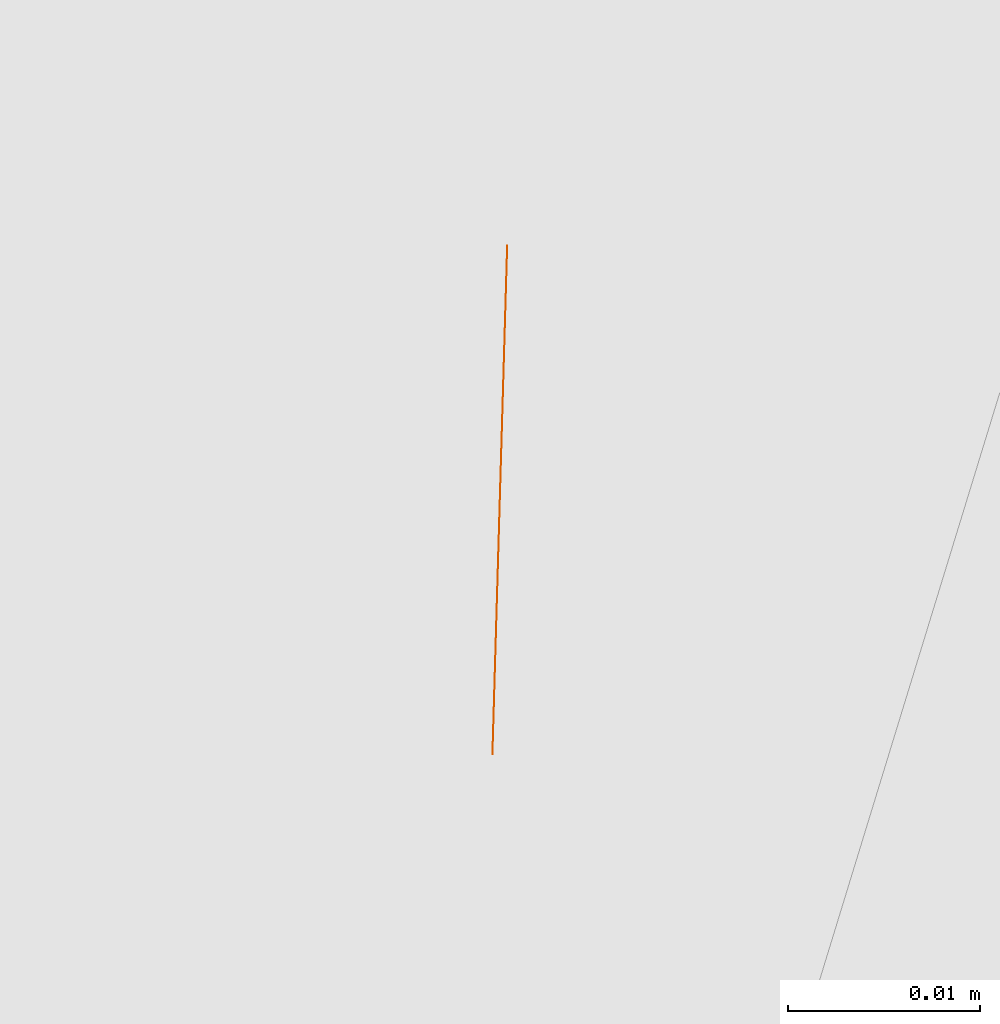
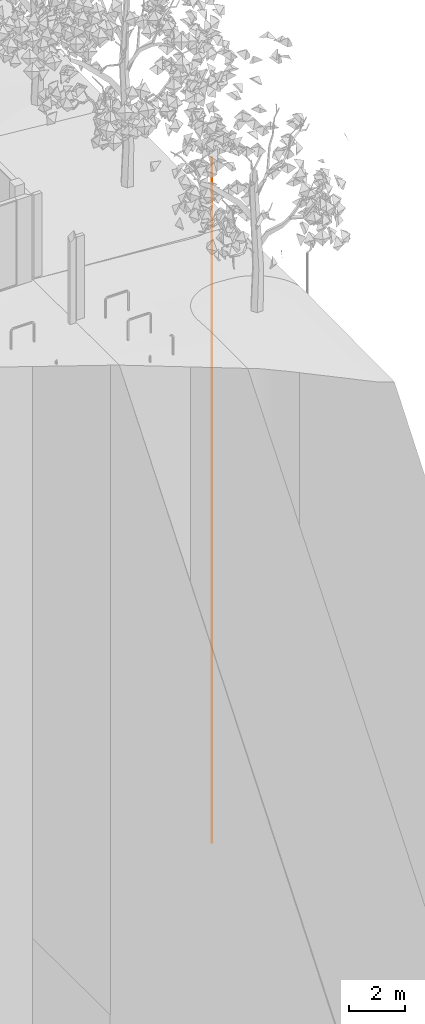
# One storey, part 46 of 69: 1 proxy.
"""IFC2X3 building model written with IfcOpenShell, lengths in millimetres."""

from ifc_helpers import new_model, entity, si_unit, converted_unit, derived_unit, money_unit, point, direction, frame, frame_2d, origin_with_axes, place, context, subcontext, project, spatial, polyline, circle_curve, parameter, trimmed, segment, composite_curve, outline, extrude, material, type_object, element, save


model = new_model("IFC2X3")

# Units and contexts
model_context = context("Model", 3, precision=0.01, world=origin_with_axes(), true_north=direction((0.0, 1.0)))
body_context = subcontext(model_context, "Body", "Model", "MODEL_VIEW")
ifc_project = project(units=[si_unit("LENGTHUNIT", "METRE", prefix="MILLI"), si_unit("AREAUNIT", "SQUARE_METRE"), si_unit("VOLUMEUNIT", "CUBIC_METRE"), converted_unit("PLANEANGLEUNIT", "DEGREE", entity("IfcPlaneAngleMeasure", 0.0174532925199), si_unit("PLANEANGLEUNIT", "RADIAN"), dimensions=[0, 0, 0, 0, 0, 0, 0]), si_unit("SOLIDANGLEUNIT", "STERADIAN"), money_unit("EUR"), converted_unit("TIMEUNIT", "Year", entity("IfcTimeMeasure", 31556926.0), si_unit("TIMEUNIT", "SECOND"), dimensions=[0, 0, 1, 0, 0, 0, 0]), si_unit("MASSUNIT", "GRAM", prefix="KILO"), si_unit("THERMODYNAMICTEMPERATUREUNIT", "DEGREE_CELSIUS"), si_unit("LUMINOUSINTENSITYUNIT", "LUMEN"), si_unit("ENERGYUNIT", "JOULE", prefix="MEGA"), derived_unit("THERMALCONDUCTANCEUNIT", [(si_unit("POWERUNIT", "WATT"), 1), (si_unit("LENGTHUNIT", "METRE"), -1), (si_unit("THERMODYNAMICTEMPERATUREUNIT", "KELVIN"), -1)]), derived_unit("SPECIFICHEATCAPACITYUNIT", [(si_unit("ENERGYUNIT", "JOULE"), 1), (si_unit("MASSUNIT", "GRAM", prefix="KILO"), -1), (si_unit("THERMODYNAMICTEMPERATUREUNIT", "KELVIN"), -1)]), derived_unit("MASSDENSITYUNIT", [(si_unit("MASSUNIT", "GRAM", prefix="KILO"), 1), (si_unit("VOLUMEUNIT", "CUBIC_METRE"), -1)])], contexts=[model_context])

# Site, building, storey
site_placement = place(None, origin_with_axes())
site = spatial("IfcSite", under=ifc_project, at=site_placement, Name="Puškini 31, Narva", CompositionType="ELEMENT")
building_placement = place(site_placement, origin_with_axes())
building = spatial("IfcBuilding", under=site, at=building_placement, Name="Narva Riigigümnaasium", CompositionType="ELEMENT")
storey_placement = place(building_placement, origin_with_axes())
storey = spatial("IfcBuildingStorey", under=building, at=storey_placement, Name="1.korrus 0.00", CompositionType="ELEMENT", Elevation=0.0)

# Proxy
ifc_material = material(Name="Sillutiskivi")
building_element_proxy_type = type_object("IfcBuildingElementProxyType", Name="Sillutiskivi 30000", PredefinedType="NOTDEFINED")
proxy_placement = place(storey_placement, frame((63023.9542513, 151950.198422, 1157.88154799), z_axis=(0.0, 0.0, 1.0), x_axis=(1.0, 0.0, 0.0)))
element("IfcBuildingElementProxy", 1, at=proxy_placement, inside=storey, type_object=building_element_proxy_type, material=ifc_material, Name="Kegliiklustee", context=body_context, shape_type="SweptSolid", body=[
    extrude(outline(composite_curve([segment(polyline([(0.0, 0.0), (-0.768417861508, -26.4734059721)]), True, "CONTINUOUS"), segment(trimmed(circle_curve(frame_2d((-1999.49840955, 44.789644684), x_axis=(0.999364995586, -0.0356315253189)), 2000.00000052), [point((-0.768417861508, -26.4734059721)), parameter(0.0)], [point((0.0, 0.0)), parameter(0.758732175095)], True, "CARTESIAN"), True, "CONTINUOUS")], self_intersect=False)), frame((0.0, 0.0, -30000.0), z_axis=(0.0, 0.0, 1.0), x_axis=(1.0, 0.0, 0.0)), (0.0, 0.0, 1.0), 30000.0),
])

save(model, "model.ifc")
